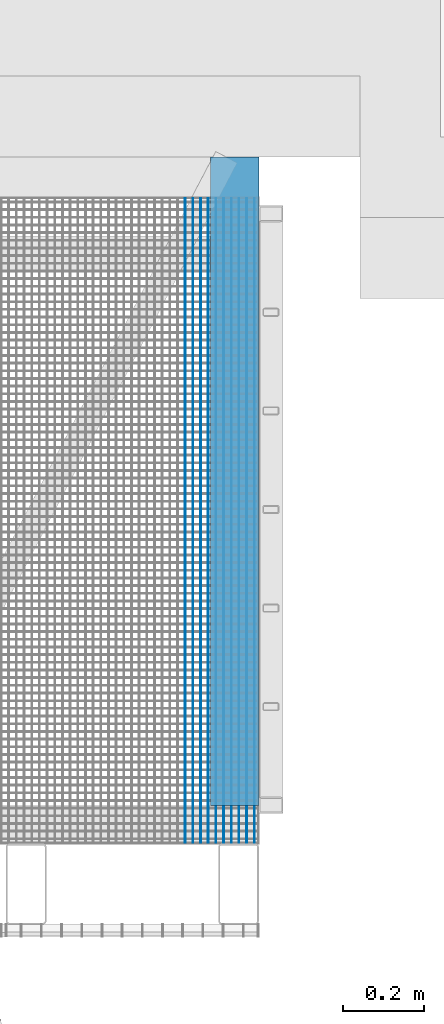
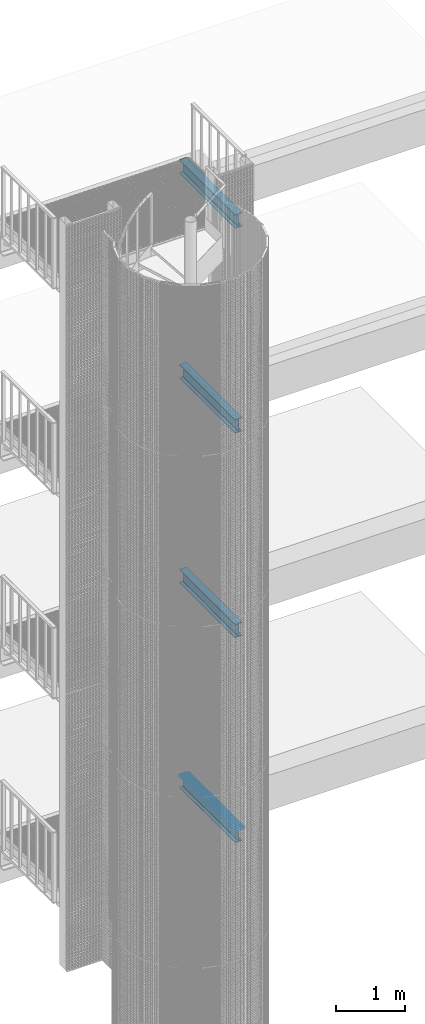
# One storey, part 102 of 1148: 14 beams, 5 elements without a shape of their own.
"""IFC2X3 building model written with IfcOpenShell, lengths in millimetres."""

from ifc_helpers import new_model, si_unit, frame, origin_with_axes, origin_2d_with_axis, place, context, subcontext, project, spatial, rectangle, i_section, extrude, material, type_object, element, aggregate, save


model = new_model("IFC2X3")

# Units and contexts
model_context = context("Model", 3, precision=1e-05, world=origin_with_axes())
body_context = subcontext(model_context, "Body", "Model", "MODEL_VIEW")
ifc_project = project(units=[si_unit("LENGTHUNIT", "METRE", prefix="MILLI"), si_unit("AREAUNIT", "SQUARE_METRE"), si_unit("VOLUMEUNIT", "CUBIC_METRE"), si_unit("MASSUNIT", "GRAM", prefix="KILO"), si_unit("TIMEUNIT", "SECOND"), si_unit("PLANEANGLEUNIT", "RADIAN"), si_unit("SOLIDANGLEUNIT", "STERADIAN"), si_unit("THERMODYNAMICTEMPERATUREUNIT", "DEGREE_CELSIUS"), si_unit("LUMINOUSINTENSITYUNIT", "LUMEN")], contexts=[model_context])

# Site, building, storey
site_placement = place(None, origin_with_axes())
site = spatial("IfcSite", under=ifc_project, at=site_placement, Name="Undefined", CompositionType="ELEMENT")
building_placement = place(site_placement, origin_with_axes())
building = spatial("IfcBuilding", under=site, at=building_placement, Name="Undefined", CompositionType="ELEMENT")
storey_placement = place(building_placement, origin_with_axes())
storey = spatial("IfcBuildingStorey", under=building, at=storey_placement, Name="Undefined", CompositionType="ELEMENT", Elevation=0.0)

# Assembly, beams
assembly_1_placement = place(storey_placement, origin_with_axes())
assembly_1 = element("IfcElementAssembly", 1, at=assembly_1_placement, inside=storey, Name="BORDURE", AssemblyPlace="NOTDEFINED", PredefinedType="NOTDEFINED")
ifc_material = material(Name="STEEL/S235JR")
beam_type_1 = type_object("IfcBeamType", Name="PL2*10", PredefinedType="NOTDEFINED")
beam_1_placement = place(assembly_1_placement, frame((22968.1154247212, 1102.00905231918, 6485.0), z_axis=(0.0, 0.0, 1.0), x_axis=(-4.50599999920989e-06, 0.999999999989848, 0.0)))
beam_1 = element("IfcBeam", 2, at=beam_1_placement, type_object=beam_type_1, material=ifc_material, Name="ENTRETOISE", context=body_context, shape_type="SweptSolid", body=[
    extrude(rectangle(XDim=2.0, YDim=10.0, at=origin_2d_with_axis()), frame((1596.0000000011, -1.35186458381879e-18, -7.27595761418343e-12), z_axis=(-1.0, 0.0, 0.0), x_axis=(0.0, -1.0, 0.0)), (0.0, 0.0, 1.0), 1596.0),
])
beam_2_placement = place(assembly_1_placement, frame((22987.1154247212, 1102.00914583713, 6485.0), z_axis=(0.0, 0.0, 1.0), x_axis=(-4.50599999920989e-06, 0.999999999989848, 0.0)))
beam_2 = element("IfcBeam", 3, at=beam_2_placement, type_object=beam_type_1, material=ifc_material, Name="ENTRETOISE", context=body_context, shape_type="SweptSolid", body=[
    extrude(rectangle(XDim=2.0, YDim=10.0, at=origin_2d_with_axis()), frame((1596.0000000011, -1.35186458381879e-18, -7.27595761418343e-12), z_axis=(-1.0, 0.0, 0.0), x_axis=(0.0, -1.0, 0.0)), (0.0, 0.0, 1.0), 1596.0),
])
beam_3_placement = place(assembly_1_placement, frame((23006.1154247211, 1102.00923935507, 6485.0), z_axis=(0.0, 0.0, 1.0), x_axis=(-4.50599999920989e-06, 0.999999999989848, 0.0)))
beam_3 = element("IfcBeam", 4, at=beam_3_placement, type_object=beam_type_1, material=ifc_material, Name="ENTRETOISE", context=body_context, shape_type="SweptSolid", body=[
    extrude(rectangle(XDim=2.0, YDim=10.0, at=origin_2d_with_axis()), frame((1596.0000000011, -1.35186458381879e-18, -7.27595761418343e-12), z_axis=(-1.0, 0.0, 0.0), x_axis=(0.0, -1.0, 0.0)), (0.0, 0.0, 1.0), 1596.0),
])
beam_4_placement = place(assembly_1_placement, frame((23025.115424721, 1102.00933287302, 6485.0), z_axis=(0.0, 0.0, 1.0), x_axis=(-4.50599999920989e-06, 0.999999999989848, 0.0)))
beam_4 = element("IfcBeam", 5, at=beam_4_placement, type_object=beam_type_1, material=ifc_material, Name="ENTRETOISE", context=body_context, shape_type="SweptSolid", body=[
    extrude(rectangle(XDim=2.0, YDim=10.0, at=origin_2d_with_axis()), frame((1596.0000000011, -1.35186458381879e-18, -7.27595761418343e-12), z_axis=(-1.0, 0.0, 0.0), x_axis=(0.0, -1.0, 0.0)), (0.0, 0.0, 1.0), 1596.0),
])
beam_5_placement = place(assembly_1_placement, frame((23044.1154247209, 1102.00942639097, 6485.0), z_axis=(0.0, 0.0, 1.0), x_axis=(-4.50599999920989e-06, 0.999999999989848, 0.0)))
beam_5 = element("IfcBeam", 6, at=beam_5_placement, type_object=beam_type_1, material=ifc_material, Name="ENTRETOISE", context=body_context, shape_type="SweptSolid", body=[
    extrude(rectangle(XDim=2.0, YDim=10.0, at=origin_2d_with_axis()), frame((1596.0000000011, -1.35186458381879e-18, -7.27595761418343e-12), z_axis=(-1.0, 0.0, 0.0), x_axis=(0.0, -1.0, 0.0)), (0.0, 0.0, 1.0), 1596.0),
])
beam_6_placement = place(assembly_1_placement, frame((23063.1154247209, 1102.00951990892, 6485.0), z_axis=(0.0, 0.0, 1.0), x_axis=(-4.50599999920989e-06, 0.999999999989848, 0.0)))
beam_6 = element("IfcBeam", 7, at=beam_6_placement, type_object=beam_type_1, material=ifc_material, Name="ENTRETOISE", context=body_context, shape_type="SweptSolid", body=[
    extrude(rectangle(XDim=2.0, YDim=10.0, at=origin_2d_with_axis()), frame((1596.0000000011, -1.35186458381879e-18, -7.27595761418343e-12), z_axis=(-1.0, 0.0, 0.0), x_axis=(0.0, -1.0, 0.0)), (0.0, 0.0, 1.0), 1596.0),
])
beam_7_placement = place(assembly_1_placement, frame((23082.1154247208, 1102.00961342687, 6485.0), z_axis=(0.0, 0.0, 1.0), x_axis=(-4.50599999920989e-06, 0.999999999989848, 0.0)))
beam_7 = element("IfcBeam", 8, at=beam_7_placement, type_object=beam_type_1, material=ifc_material, Name="ENTRETOISE", context=body_context, shape_type="SweptSolid", body=[
    extrude(rectangle(XDim=2.0, YDim=10.0, at=origin_2d_with_axis()), frame((1596.0000000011, -1.35186458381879e-18, -7.27595761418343e-12), z_axis=(-1.0, 0.0, 0.0), x_axis=(0.0, -1.0, 0.0)), (0.0, 0.0, 1.0), 1596.0),
])
beam_8_placement = place(assembly_1_placement, frame((23101.1154247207, 1102.00970694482, 6485.0), z_axis=(0.0, 0.0, 1.0), x_axis=(-4.50599999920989e-06, 0.999999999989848, 0.0)))
beam_8 = element("IfcBeam", 9, at=beam_8_placement, type_object=beam_type_1, material=ifc_material, Name="ENTRETOISE", context=body_context, shape_type="SweptSolid", body=[
    extrude(rectangle(XDim=2.0, YDim=10.0, at=origin_2d_with_axis()), frame((1596.0000000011, -1.35186458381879e-18, -7.27595761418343e-12), z_axis=(-1.0, 0.0, 0.0), x_axis=(0.0, -1.0, 0.0)), (0.0, 0.0, 1.0), 1596.0),
])
beam_9_placement = place(assembly_1_placement, frame((23120.1154247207, 1102.00980046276, 6485.0), z_axis=(0.0, 0.0, 1.0), x_axis=(-4.50599999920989e-06, 0.999999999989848, 0.0)))
beam_9 = element("IfcBeam", 10, at=beam_9_placement, type_object=beam_type_1, material=ifc_material, Name="ENTRETOISE", context=body_context, shape_type="SweptSolid", body=[
    extrude(rectangle(XDim=2.0, YDim=10.0, at=origin_2d_with_axis()), frame((1596.0000000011, -1.35186458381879e-18, -7.27595761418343e-12), z_axis=(-1.0, 0.0, 0.0), x_axis=(0.0, -1.0, 0.0)), (0.0, 0.0, 1.0), 1596.0),
])
beam_10_placement = place(assembly_1_placement, frame((23139.1154247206, 1102.00989398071, 6485.0), z_axis=(0.0, 0.0, 1.0), x_axis=(-4.50599999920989e-06, 0.999999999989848, 0.0)))
beam_10 = element("IfcBeam", 11, at=beam_10_placement, type_object=beam_type_1, material=ifc_material, Name="ENTRETOISE", context=body_context, shape_type="SweptSolid", body=[
    extrude(rectangle(XDim=2.0, YDim=10.0, at=origin_2d_with_axis()), frame((1596.0000000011, -1.35186458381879e-18, -7.27595761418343e-12), z_axis=(-1.0, 0.0, 0.0), x_axis=(0.0, -1.0, 0.0)), (0.0, 0.0, 1.0), 1596.0),
])
aggregate(assembly_1, [beam_1, beam_2, beam_3, beam_4, beam_5, beam_6, beam_7, beam_8, beam_9, beam_10])

# Assembly, beam
assembly_2_placement = place(storey_placement, origin_with_axes())
assembly_2 = element("IfcElementAssembly", 12, at=assembly_2_placement, inside=storey, AssemblyPlace="NOTDEFINED", PredefinedType="NOTDEFINED")
beam_type_2 = type_object("IfcBeamType", Name="IPE240", PredefinedType="NOTDEFINED")
beam_11_placement = place(assembly_2_placement, frame((23090.1104345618, 1195.00969459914, 17120.0), z_axis=(0.0, 0.0, 1.0), x_axis=(-4.50599999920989e-06, 0.999999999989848, 0.0)))
beam_11 = element("IfcBeam", 13, at=beam_11_placement, type_object=beam_type_2, material=ifc_material, Name="EXISTANTS", context=body_context, shape_type="SweptSolid", body=[
    extrude(i_section(OverallWidth=120.0, OverallDepth=240.0, WebThickness=6.199999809, FlangeThickness=9.800000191, FilletRadius=15.0, at=origin_2d_with_axis()), frame((1604.99832798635, 0.0, 3.63797880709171e-12), z_axis=(-1.0, 0.0, 0.0), x_axis=(0.0, -1.0, 0.0)), (0.0, 0.0, 1.0), 1605.0),
])
aggregate(assembly_2, [beam_11])

assembly_3_placement = place(storey_placement, origin_with_axes())
assembly_3 = element("IfcElementAssembly", 14, at=assembly_3_placement, inside=storey, AssemblyPlace="NOTDEFINED", PredefinedType="NOTDEFINED")
beam_12_placement = place(assembly_3_placement, frame((23090.1104345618, 1195.00969459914, 13520.0), z_axis=(0.0, 0.0, 1.0), x_axis=(-4.50599999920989e-06, 0.999999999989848, 0.0)))
beam_12 = element("IfcBeam", 15, at=beam_12_placement, type_object=beam_type_2, material=ifc_material, Name="EXISTANTS", context=body_context, shape_type="SweptSolid", body=[
    extrude(i_section(OverallWidth=120.0, OverallDepth=240.0, WebThickness=6.199999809, FlangeThickness=9.800000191, FilletRadius=15.0, at=origin_2d_with_axis()), frame((1604.99832798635, 0.0, 3.63797880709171e-12), z_axis=(-1.0, 0.0, 0.0), x_axis=(0.0, -1.0, 0.0)), (0.0, 0.0, 1.0), 1605.0),
])
aggregate(assembly_3, [beam_12])

assembly_4_placement = place(storey_placement, origin_with_axes())
assembly_4 = element("IfcElementAssembly", 16, at=assembly_4_placement, inside=storey, AssemblyPlace="NOTDEFINED", PredefinedType="NOTDEFINED")
beam_13_placement = place(assembly_4_placement, frame((23090.1104345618, 1195.00969459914, 9920.0), z_axis=(0.0, 0.0, 1.0), x_axis=(-4.50599999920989e-06, 0.999999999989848, 0.0)))
beam_13 = element("IfcBeam", 17, at=beam_13_placement, type_object=beam_type_2, material=ifc_material, Name="EXISTANTS", context=body_context, shape_type="SweptSolid", body=[
    extrude(i_section(OverallWidth=120.0, OverallDepth=240.0, WebThickness=6.199999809, FlangeThickness=9.800000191, FilletRadius=15.0, at=origin_2d_with_axis()), frame((1604.99832798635, 0.0, 3.63797880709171e-12), z_axis=(-1.0, 0.0, 0.0), x_axis=(0.0, -1.0, 0.0)), (0.0, 0.0, 1.0), 1605.0),
])
aggregate(assembly_4, [beam_13])

assembly_5_placement = place(storey_placement, origin_with_axes())
assembly_5 = element("IfcElementAssembly", 18, at=assembly_5_placement, inside=storey, AssemblyPlace="NOTDEFINED", PredefinedType="NOTDEFINED")
beam_14_placement = place(assembly_5_placement, frame((23090.1104345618, 1195.00969459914, 6320.0), z_axis=(0.0, 0.0, 1.0), x_axis=(-4.50599999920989e-06, 0.999999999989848, 0.0)))
beam_14 = element("IfcBeam", 19, at=beam_14_placement, type_object=beam_type_2, material=ifc_material, Name="EXISTANTS", context=body_context, shape_type="SweptSolid", body=[
    extrude(i_section(OverallWidth=120.0, OverallDepth=240.0, WebThickness=6.199999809, FlangeThickness=9.800000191, FilletRadius=15.0, at=origin_2d_with_axis()), frame((1604.99832798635, 0.0, 3.63797880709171e-12), z_axis=(-1.0, 0.0, 0.0), x_axis=(0.0, -1.0, 0.0)), (0.0, 0.0, 1.0), 1605.0),
])
aggregate(assembly_5, [beam_14])

save(model, "model.ifc")
